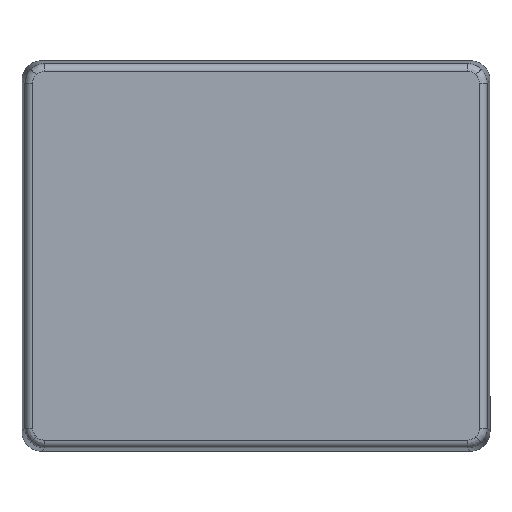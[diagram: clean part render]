
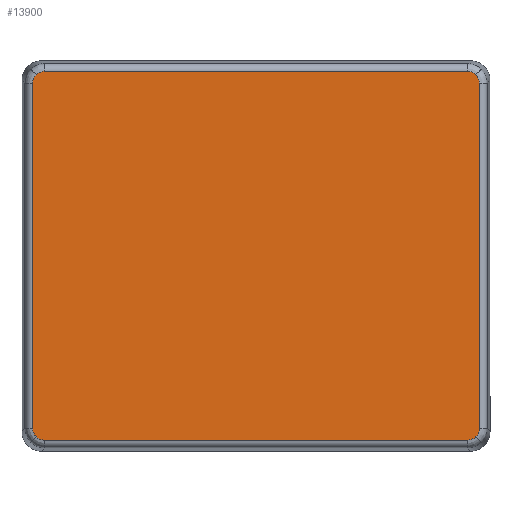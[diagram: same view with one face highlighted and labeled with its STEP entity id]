
A CAD part, top view. The second image highlights one B-rep face of the part: STEP entity #13900.
In plain terms, the highlighted planar face has unit normal (0, 0, 1).
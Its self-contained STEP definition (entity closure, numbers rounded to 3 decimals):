
#584=LINE('',#20738,#1674);
#585=LINE('',#20746,#1675);
#586=LINE('',#20754,#1676);
#587=LINE('',#20762,#1677);
#1674=VECTOR('',#15743,108.866);
#1675=VECTOR('',#15744,88.866);
#1676=VECTOR('',#15745,108.866);
#1677=VECTOR('',#15746,88.866);
#2666=PLANE('',#14765);
#2961=(
BOUNDED_CURVE()
B_SPLINE_CURVE(3,(#18357,#18358,#18359,#18360,#18361,#18362),
 .UNSPECIFIED.,.F.,.F.)
B_SPLINE_CURVE_WITH_KNOTS((4,2,4),(5.498,5.891,6.283),
 .UNSPECIFIED.)
CURVE()
GEOMETRIC_REPRESENTATION_ITEM()
RATIONAL_B_SPLINE_CURVE((1.,1.,1.,1.,1.,1.))
REPRESENTATION_ITEM('')
);
#2962=(
BOUNDED_CURVE()
B_SPLINE_CURVE(3,(#18394,#18395,#18396,#18397,#18398,#18399),
 .UNSPECIFIED.,.F.,.F.)
B_SPLINE_CURVE_WITH_KNOTS((4,2,4),(5.498,5.891,6.283),
 .UNSPECIFIED.)
CURVE()
GEOMETRIC_REPRESENTATION_ITEM()
RATIONAL_B_SPLINE_CURVE((1.,1.,1.,1.,1.,1.))
REPRESENTATION_ITEM('')
);
#2963=(
BOUNDED_CURVE()
B_SPLINE_CURVE(3,(#18431,#18432,#18433,#18434,#18435,#18436),
 .UNSPECIFIED.,.F.,.F.)
B_SPLINE_CURVE_WITH_KNOTS((4,2,4),(5.498,5.891,6.283),
 .UNSPECIFIED.)
CURVE()
GEOMETRIC_REPRESENTATION_ITEM()
RATIONAL_B_SPLINE_CURVE((1.,1.,1.,1.,1.,1.))
REPRESENTATION_ITEM('')
);
#2964=(
BOUNDED_CURVE()
B_SPLINE_CURVE(3,(#18468,#18469,#18470,#18471,#18472,#18473),
 .UNSPECIFIED.,.F.,.F.)
B_SPLINE_CURVE_WITH_KNOTS((4,2,4),(5.498,5.891,6.283),
 .UNSPECIFIED.)
CURVE()
GEOMETRIC_REPRESENTATION_ITEM()
RATIONAL_B_SPLINE_CURVE((1.,1.,1.,1.,1.,1.))
REPRESENTATION_ITEM('')
);
#2965=(
BOUNDED_CURVE()
B_SPLINE_CURVE(3,(#20740,#20741,#20742,#20743,#20744,#20745),
 .UNSPECIFIED.,.F.,.F.)
B_SPLINE_CURVE_WITH_KNOTS((4,2,4),(0.,0.393,0.785),
 .UNSPECIFIED.)
CURVE()
GEOMETRIC_REPRESENTATION_ITEM()
RATIONAL_B_SPLINE_CURVE((1.,1.,1.,1.,1.,1.))
REPRESENTATION_ITEM('')
);
#2966=(
BOUNDED_CURVE()
B_SPLINE_CURVE(3,(#20748,#20749,#20750,#20751,#20752,#20753),
 .UNSPECIFIED.,.F.,.F.)
B_SPLINE_CURVE_WITH_KNOTS((4,2,4),(0.,0.393,0.785),
 .UNSPECIFIED.)
CURVE()
GEOMETRIC_REPRESENTATION_ITEM()
RATIONAL_B_SPLINE_CURVE((1.,1.,1.,1.,1.,1.))
REPRESENTATION_ITEM('')
);
#2967=(
BOUNDED_CURVE()
B_SPLINE_CURVE(3,(#20756,#20757,#20758,#20759,#20760,#20761),
 .UNSPECIFIED.,.F.,.F.)
B_SPLINE_CURVE_WITH_KNOTS((4,2,4),(0.,0.393,0.785),
 .UNSPECIFIED.)
CURVE()
GEOMETRIC_REPRESENTATION_ITEM()
RATIONAL_B_SPLINE_CURVE((1.,1.,1.,1.,1.,1.))
REPRESENTATION_ITEM('')
);
#2968=(
BOUNDED_CURVE()
B_SPLINE_CURVE(3,(#20763,#20764,#20765,#20766,#20767,#20768),
 .UNSPECIFIED.,.F.,.F.)
B_SPLINE_CURVE_WITH_KNOTS((4,2,4),(0.,0.393,
0.785),.UNSPECIFIED.)
CURVE()
GEOMETRIC_REPRESENTATION_ITEM()
RATIONAL_B_SPLINE_CURVE((1.,1.,1.,1.,1.,1.))
REPRESENTATION_ITEM('')
);
#3861=FACE_OUTER_BOUND('',#4717,.T.);
#4717=EDGE_LOOP('',(#9784,#9785,#9786,#9787,#9788,#9789,#9790,#9791,#9792,
#9793,#9794,#9795));
#5934=VERTEX_POINT('',#18354);
#5935=VERTEX_POINT('',#18356);
#5938=VERTEX_POINT('',#18391);
#5939=VERTEX_POINT('',#18393);
#5942=VERTEX_POINT('',#18428);
#5943=VERTEX_POINT('',#18430);
#5946=VERTEX_POINT('',#18465);
#5947=VERTEX_POINT('',#18467);
#6192=VERTEX_POINT('',#20737);
#6193=VERTEX_POINT('',#20739);
#6194=VERTEX_POINT('',#20747);
#6195=VERTEX_POINT('',#20755);
#7357=EDGE_CURVE('',#5935,#5934,#2961,.T.);
#7361=EDGE_CURVE('',#5939,#5938,#2962,.T.);
#7365=EDGE_CURVE('',#5943,#5942,#2963,.T.);
#7369=EDGE_CURVE('',#5947,#5946,#2964,.T.);
#7619=EDGE_CURVE('',#6192,#5935,#584,.T.);
#7620=EDGE_CURVE('',#5934,#6193,#2965,.T.);
#7621=EDGE_CURVE('',#6193,#5939,#585,.T.);
#7622=EDGE_CURVE('',#5938,#6194,#2966,.T.);
#7623=EDGE_CURVE('',#6194,#5947,#586,.T.);
#7624=EDGE_CURVE('',#5946,#6195,#2967,.T.);
#7625=EDGE_CURVE('',#6195,#5943,#587,.T.);
#7626=EDGE_CURVE('',#5942,#6192,#2968,.T.);
#9784=ORIENTED_EDGE('',*,*,#7619,.T.);
#9785=ORIENTED_EDGE('',*,*,#7357,.T.);
#9786=ORIENTED_EDGE('',*,*,#7620,.T.);
#9787=ORIENTED_EDGE('',*,*,#7621,.T.);
#9788=ORIENTED_EDGE('',*,*,#7361,.T.);
#9789=ORIENTED_EDGE('',*,*,#7622,.T.);
#9790=ORIENTED_EDGE('',*,*,#7623,.T.);
#9791=ORIENTED_EDGE('',*,*,#7369,.T.);
#9792=ORIENTED_EDGE('',*,*,#7624,.T.);
#9793=ORIENTED_EDGE('',*,*,#7625,.T.);
#9794=ORIENTED_EDGE('',*,*,#7365,.T.);
#9795=ORIENTED_EDGE('',*,*,#7626,.T.);
#13900=ADVANCED_FACE('',(#3861),#2666,.T.);
#14765=AXIS2_PLACEMENT_3D('',#20736,#15741,#15742);
#15741=DIRECTION('center_axis',(0.,0.,1.));
#15742=DIRECTION('ref_axis',(1.,0.,0.));
#15743=DIRECTION('',(-1.,0.,0.));
#15744=DIRECTION('',(0.,-1.,0.));
#15745=DIRECTION('',(1.,0.,0.));
#15746=DIRECTION('',(0.,1.,0.));
#18354=CARTESIAN_POINT('',(-56.554,46.554,31.3));
#18356=CARTESIAN_POINT('',(-54.433,47.432,31.3));
#18357=CARTESIAN_POINT('Ctrl Pts',(-54.433,47.432,31.3));
#18358=CARTESIAN_POINT('Ctrl Pts',(-54.826,47.432,31.3));
#18359=CARTESIAN_POINT('Ctrl Pts',(-55.218,47.354,31.3));
#18360=CARTESIAN_POINT('Ctrl Pts',(-55.944,47.054,31.3));
#18361=CARTESIAN_POINT('Ctrl Pts',(-56.276,46.831,31.3));
#18362=CARTESIAN_POINT('Ctrl Pts',(-56.554,46.554,31.3));
#18391=CARTESIAN_POINT('',(-56.554,-46.554,31.3));
#18393=CARTESIAN_POINT('',(-57.432,-44.433,31.3));
#18394=CARTESIAN_POINT('Ctrl Pts',(-57.432,-44.433,
31.3));
#18395=CARTESIAN_POINT('Ctrl Pts',(-57.432,-44.826,
31.3));
#18396=CARTESIAN_POINT('Ctrl Pts',(-57.354,-45.218,
31.3));
#18397=CARTESIAN_POINT('Ctrl Pts',(-57.054,-45.944,31.3));
#18398=CARTESIAN_POINT('Ctrl Pts',(-56.831,-46.276,
31.3));
#18399=CARTESIAN_POINT('Ctrl Pts',(-56.554,-46.554,
31.3));
#18428=CARTESIAN_POINT('',(56.554,46.554,31.3));
#18430=CARTESIAN_POINT('',(57.432,44.433,31.3));
#18431=CARTESIAN_POINT('Ctrl Pts',(57.432,44.433,31.3));
#18432=CARTESIAN_POINT('Ctrl Pts',(57.432,44.826,31.3));
#18433=CARTESIAN_POINT('Ctrl Pts',(57.354,45.218,31.3));
#18434=CARTESIAN_POINT('Ctrl Pts',(57.054,45.944,31.3));
#18435=CARTESIAN_POINT('Ctrl Pts',(56.831,46.276,31.3));
#18436=CARTESIAN_POINT('Ctrl Pts',(56.554,46.554,31.3));
#18465=CARTESIAN_POINT('',(56.554,-46.554,31.3));
#18467=CARTESIAN_POINT('',(54.433,-47.432,31.3));
#18468=CARTESIAN_POINT('Ctrl Pts',(54.433,-47.432,31.3));
#18469=CARTESIAN_POINT('Ctrl Pts',(54.826,-47.432,31.3));
#18470=CARTESIAN_POINT('Ctrl Pts',(55.218,-47.354,31.3));
#18471=CARTESIAN_POINT('Ctrl Pts',(55.944,-47.054,31.3));
#18472=CARTESIAN_POINT('Ctrl Pts',(56.276,-46.831,31.3));
#18473=CARTESIAN_POINT('Ctrl Pts',(56.554,-46.554,31.3));
#20736=CARTESIAN_POINT('Origin',(-60.2,-50.2,31.3));
#20737=CARTESIAN_POINT('',(54.433,47.432,31.3));
#20738=CARTESIAN_POINT('',(54.433,47.432,31.3));
#20739=CARTESIAN_POINT('',(-57.432,44.433,31.3));
#20740=CARTESIAN_POINT('Ctrl Pts',(-56.554,46.554,31.3));
#20741=CARTESIAN_POINT('Ctrl Pts',(-56.831,46.276,31.3));
#20742=CARTESIAN_POINT('Ctrl Pts',(-57.054,45.944,31.3));
#20743=CARTESIAN_POINT('Ctrl Pts',(-57.354,45.218,31.3));
#20744=CARTESIAN_POINT('Ctrl Pts',(-57.432,44.826,31.3));
#20745=CARTESIAN_POINT('Ctrl Pts',(-57.432,44.433,31.3));
#20746=CARTESIAN_POINT('',(-57.432,44.433,31.3));
#20747=CARTESIAN_POINT('',(-54.433,-47.432,31.3));
#20748=CARTESIAN_POINT('Ctrl Pts',(-56.554,-46.554,
31.3));
#20749=CARTESIAN_POINT('Ctrl Pts',(-56.276,-46.831,
31.3));
#20750=CARTESIAN_POINT('Ctrl Pts',(-55.944,-47.054,
31.3));
#20751=CARTESIAN_POINT('Ctrl Pts',(-55.218,-47.354,
31.3));
#20752=CARTESIAN_POINT('Ctrl Pts',(-54.826,-47.432,
31.3));
#20753=CARTESIAN_POINT('Ctrl Pts',(-54.433,-47.432,
31.3));
#20754=CARTESIAN_POINT('',(-54.433,-47.432,31.3));
#20755=CARTESIAN_POINT('',(57.432,-44.433,31.3));
#20756=CARTESIAN_POINT('Ctrl Pts',(56.554,-46.554,31.3));
#20757=CARTESIAN_POINT('Ctrl Pts',(56.831,-46.276,31.3));
#20758=CARTESIAN_POINT('Ctrl Pts',(57.054,-45.944,31.3));
#20759=CARTESIAN_POINT('Ctrl Pts',(57.354,-45.218,31.3));
#20760=CARTESIAN_POINT('Ctrl Pts',(57.432,-44.826,31.3));
#20761=CARTESIAN_POINT('Ctrl Pts',(57.432,-44.433,31.3));
#20762=CARTESIAN_POINT('',(57.432,-44.433,31.3));
#20763=CARTESIAN_POINT('Ctrl Pts',(56.554,46.554,31.3));
#20764=CARTESIAN_POINT('Ctrl Pts',(56.276,46.831,31.3));
#20765=CARTESIAN_POINT('Ctrl Pts',(55.944,47.054,31.3));
#20766=CARTESIAN_POINT('Ctrl Pts',(55.218,47.354,31.3));
#20767=CARTESIAN_POINT('Ctrl Pts',(54.826,47.432,31.3));
#20768=CARTESIAN_POINT('Ctrl Pts',(54.433,47.432,31.3));
